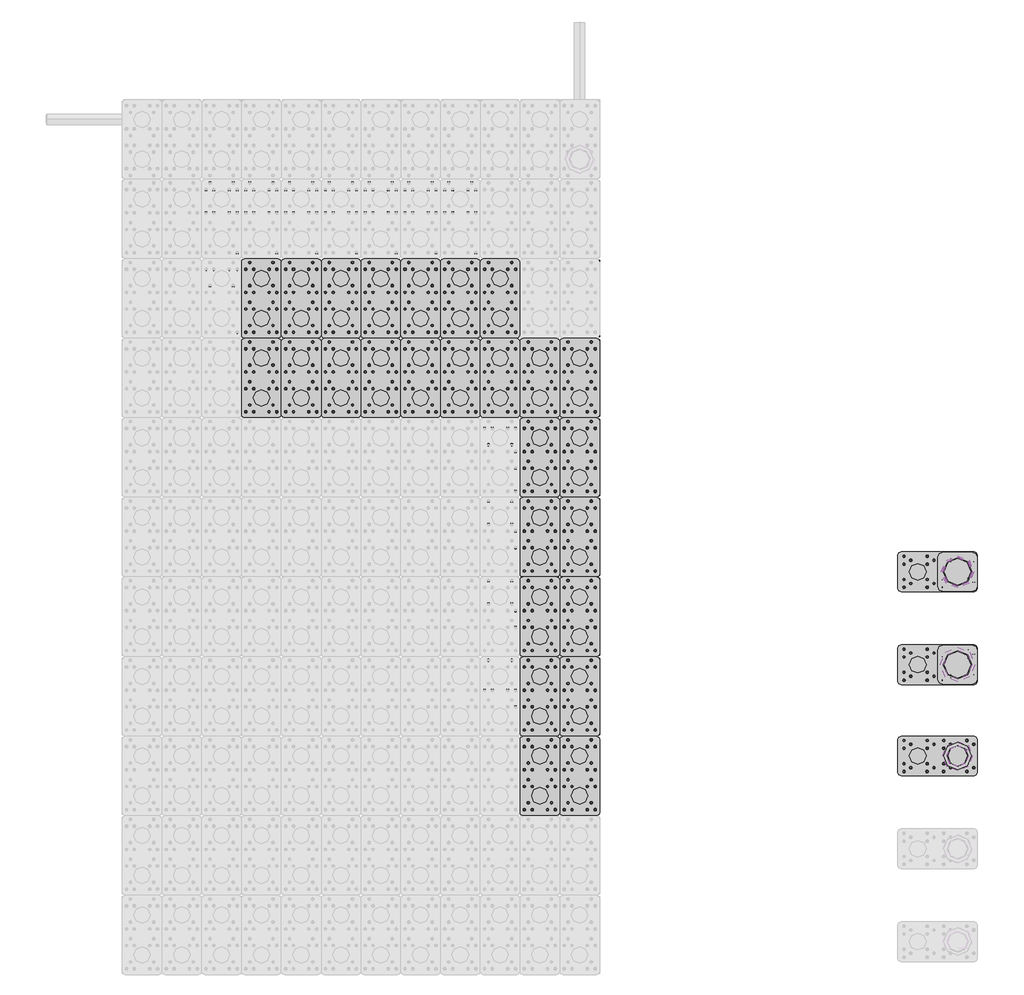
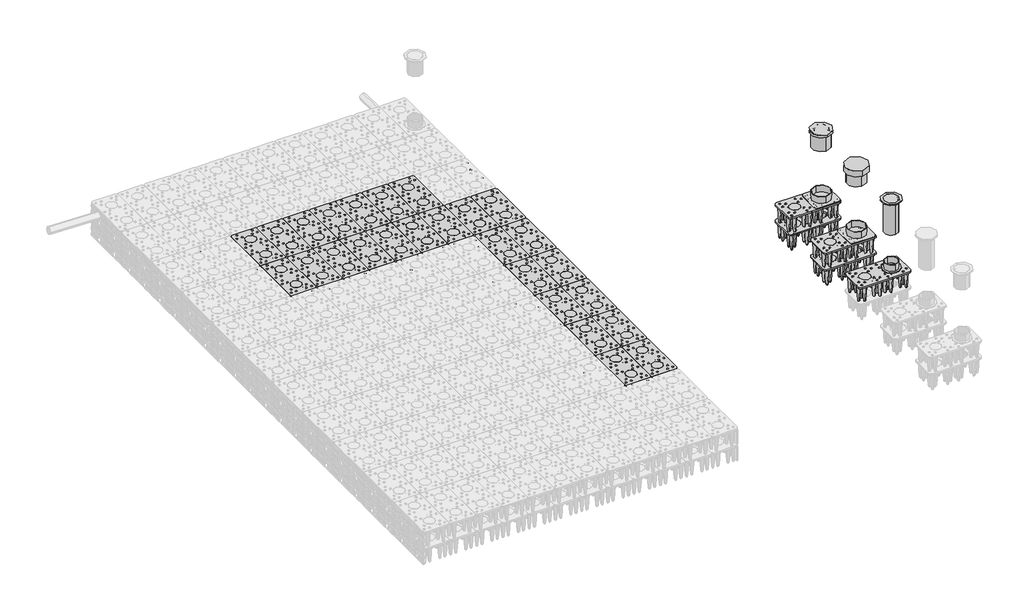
# One storey, part 4 of 6: 77 unitary equipment elements, 8 pipe fittings.
"""IFC4 building model written with IfcOpenShell, lengths in millimetres."""

from ifc_helpers import new_model, si_unit, origin, place, context, project, spatial, transform, mapped, element, save
from components import pipe_fitting_846650ca, pipe_fitting_b3aed72a, pipe_fitting_315_pp_ral9200_0fd825c0, pipe_fitting_425_pp_ral9200_b86bad7e, pipe_fitting_425_cast_iron_ral_9200_c55d621d, std_96d167fa, unitary_equipment_315_mm_28b5e6e1, unitary_equipment_425_mm_c4a4c188, std_5ed7479e, std_ece4d7e7, std_5641c3e3, std_cb78f788, std_054ed5cf

model = new_model("IFC4")

# Units and contexts
model_context = context("Model", 3, world=origin())
ifc_project = project(units=[si_unit("LENGTHUNIT", "METRE", prefix="MILLI")], contexts=[model_context])

# Site, building, storey
site = spatial("IfcSite", under=ifc_project)
building = spatial("IfcBuilding", under=site)
storey = spatial("IfcBuildingStorey", under=building, Name="Aquacell", Elevation=-2300.0)

# Pipe fittings
placement = place(None, origin())
pipe_fitting_shape = pipe_fitting_846650ca(model_context)
element("IfcPipeFitting", 1, ObjectType="Z_PIF_UN_Aquacell_NG_Telescopic_Pipe_PVC_Wavin_(nested) : DN315 L=750mm RAL8012", at=placement, inside=storey, context=model_context, shape_type="MappedRepresentation", body=[
    mapped(pipe_fitting_shape, transform((15086.051096, 60.7779398, 165.0), x_axis=(0.0, -1.0, 0.0), y_axis=(1.0, 0.0, 0.0), z_axis=(0.0, 0.0, 1.0))),
])
pipe_fitting_2_shape = pipe_fitting_b3aed72a(model_context)
element("IfcPipeFitting", 2, ObjectType="Z_PIF_UN_Aquacell_NG_Telescopic_Pipe_PVC_Wavin_(nested) : DN425 L=375mm RAL8012", at=placement, inside=storey, context=model_context, shape_type="MappedRepresentation", body=[
    mapped(pipe_fitting_2_shape, transform((15086.051096, 1438.247904, 165.0), x_axis=(0.0, -1.0, 0.0), y_axis=(1.0, 0.0, 0.0), z_axis=(0.0, 0.0, 1.0))),
])
element("IfcPipeFitting", 3, ObjectType="Z_PIF_UN_Aquacell_NG_Telescopic_Pipe_PVC_Wavin_(nested) : DN425 L=375mm RAL8012", at=placement, inside=storey, context=model_context, shape_type="MappedRepresentation", body=[
    mapped(pipe_fitting_2_shape, transform((15086.051096, 2838.247904, 165.0), x_axis=(0.0, -1.0, 0.0), y_axis=(1.0, 0.0, 0.0), z_axis=(0.0, 0.0, 1.0))),
])
pipe_fitting_315_pp_ral9200_shape = pipe_fitting_315_pp_ral9200_0fd825c0(model_context)
element("IfcPipeFitting", 4, ObjectType="Z_PIF_UN_Aquacell_NG_Round_Cover_Wavin_(nested) : 315 PP, RAL9200", at=placement, inside=storey, context=model_context, shape_type="MappedRepresentation", body=[
    mapped(pipe_fitting_315_pp_ral9200_shape, transform((15086.051096, 60.7779398, 200.0), x_axis=(0.0, -1.0, 0.0), y_axis=(1.0, 0.0, 0.0), z_axis=(0.0, 0.0, 1.0))),
])
pipe_fitting_425_pp_ral9200_shape = pipe_fitting_425_pp_ral9200_b86bad7e(model_context)
element("IfcPipeFitting", 5, ObjectType="Z_PIF_UN_Aquacell_NG_Round_Cover_Wavin_(nested) : 425 PP, RAL9200", at=placement, inside=storey, context=model_context, shape_type="MappedRepresentation", body=[
    mapped(pipe_fitting_425_pp_ral9200_shape, transform((15086.051096, 2838.247904, 200.0), x_axis=(0.0, -1.0, 0.0), y_axis=(1.0, 0.0, 0.0), z_axis=(0.0, 0.0, 1.0))),
])
pipe_fitting_425_cast_iron_ral_9200_shape = pipe_fitting_425_cast_iron_ral_9200_c55d621d(model_context)
element("IfcPipeFitting", 6, ObjectType="Z_PIF_UN_Aquacell_NG_Round_Cover_Wavin_(nested) : 425 cast iron, RAL 9200", at=placement, inside=storey, context=model_context, shape_type="MappedRepresentation", body=[
    mapped(pipe_fitting_425_cast_iron_ral_9200_shape, transform((15086.051096, 1438.247904, 200.0), x_axis=(0.0, -1.0, 0.0), y_axis=(1.0, 0.0, 0.0), z_axis=(0.0, 0.0, 1.0))),
])
std_shape = std_96d167fa(model_context)
element("IfcPipeFitting", 7, ObjectType="Z_PIF_UN_Aquacell_NG_Telescopic_Frame_Wavin_(nested) : std", at=placement, inside=storey, context=model_context, shape_type="MappedRepresentation", body=[
    mapped(std_shape, transform((15086.051096, 60.7779398, 200.0), x_axis=(0.0, -1.0, 0.0), y_axis=(1.0, 0.0, 0.0), z_axis=(0.0, 0.0, 1.0))),
])
element("IfcPipeFitting", 8, ObjectType="Z_PIF_UN_Aquacell_NG_Telescopic_Frame_Wavin_(nested) : std", at=placement, inside=storey, context=model_context, shape_type="MappedRepresentation", body=[
    mapped(std_shape, transform((15086.051096, 2838.247904, 200.0), x_axis=(0.0, -1.0, 0.0), y_axis=(1.0, 0.0, 0.0), z_axis=(0.0, 0.0, 1.0))),
])

# Unitary equipment
unitary_equipment_315_mm_shape = unitary_equipment_315_mm_28b5e6e1(model_context)
element("IfcUnitaryEquipment", 9, ObjectType="Z_ME_UN_Aquacell_NG_Kit_Shaft_Connector_Wavin_(nested) : 315 mm", at=placement, inside=storey, context=model_context, shape_type="MappedRepresentation", body=[
    mapped(unitary_equipment_315_mm_shape, transform((15086.051096, 60.7779398, -1475.0), x_axis=(1.0, 0.0, 0.0), y_axis=(0.0, 1.0, 0.0), z_axis=(0.0, 0.0, 1.0))),
])
unitary_equipment_425_mm_shape = unitary_equipment_425_mm_c4a4c188(model_context)
element("IfcUnitaryEquipment", 10, ObjectType="Z_ME_UN_Aquacell_NG_Kit_Shaft_Connector_Wavin_(nested) : 425 mm", at=placement, inside=storey, context=model_context, shape_type="MappedRepresentation", body=[
    mapped(unitary_equipment_425_mm_shape, transform((15086.051096, 1438.247904, -1475.0), x_axis=(1.0, 0.0, 0.0), y_axis=(0.0, 1.0, 0.0), z_axis=(0.0, 0.0, 1.0))),
])
element("IfcUnitaryEquipment", 11, ObjectType="Z_ME_UN_Aquacell_NG_Kit_Shaft_Connector_Wavin_(nested) : 425 mm", at=placement, inside=storey, context=model_context, shape_type="MappedRepresentation", body=[
    mapped(unitary_equipment_425_mm_shape, transform((15086.051096, 2838.247904, -1475.0), x_axis=(1.0, 0.0, 0.0), y_axis=(0.0, 1.0, 0.0), z_axis=(0.0, 0.0, 1.0))),
])
std_2_shape = std_5ed7479e(model_context)
element("IfcUnitaryEquipment", 12, ObjectType="Z_ME_UN_Aquacell_NG_Lateral_Side_Plate_Wavin_(nested) : std", at=placement, inside=storey, context=model_context, shape_type="MappedRepresentation", body=[
    mapped(std_2_shape, transform((9686.051096, 3960.7779398, -2306.0), x_axis=(0.0, 1.0000000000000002, 0.0), y_axis=(-1.0000000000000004, 0.0, 0.0), z_axis=(0.0, 0.0, 1.0000000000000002))),
])
element("IfcUnitaryEquipment", 13, ObjectType="Z_ME_UN_Aquacell_NG_Lateral_Side_Plate_Wavin_(nested) : std", at=placement, inside=storey, context=model_context, shape_type="MappedRepresentation", body=[
    mapped(std_2_shape, transform((9686.051096, 3960.7779398, -1906.0), x_axis=(0.0, 1.0000000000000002, 0.0), y_axis=(-1.0000000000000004, 0.0, 0.0), z_axis=(0.0, 0.0, 1.0000000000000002))),
])
element("IfcUnitaryEquipment", 14, ObjectType="Z_ME_UN_Aquacell_NG_Lateral_Side_Plate_Wavin_(nested) : std", at=placement, inside=storey, context=model_context, shape_type="MappedRepresentation", body=[
    mapped(std_2_shape, transform((9686.051096, 1560.7779398, -2306.0), x_axis=(0.0, 1.0000000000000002, 0.0), y_axis=(-1.0000000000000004, 0.0, 0.0), z_axis=(0.0, 0.0, 1.0000000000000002))),
])
element("IfcUnitaryEquipment", 15, ObjectType="Z_ME_UN_Aquacell_NG_Lateral_Side_Plate_Wavin_(nested) : std", at=placement, inside=storey, context=model_context, shape_type="MappedRepresentation", body=[
    mapped(std_2_shape, transform((9686.051096, 1560.7779398, -1906.0), x_axis=(0.0, 1.0000000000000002, 0.0), y_axis=(-1.0000000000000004, 0.0, 0.0), z_axis=(0.0, 0.0, 1.0000000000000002))),
])
element("IfcUnitaryEquipment", 16, ObjectType="Z_ME_UN_Aquacell_NG_Lateral_Side_Plate_Wavin_(nested) : std", at=placement, inside=storey, context=model_context, shape_type="MappedRepresentation", body=[
    mapped(std_2_shape, transform((9686.051096, 360.7779398, -2306.0), x_axis=(0.0, 1.0000000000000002, 0.0), y_axis=(-1.0000000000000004, 0.0, 0.0), z_axis=(0.0, 0.0, 1.0000000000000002))),
])
element("IfcUnitaryEquipment", 17, ObjectType="Z_ME_UN_Aquacell_NG_Lateral_Side_Plate_Wavin_(nested) : std", at=placement, inside=storey, context=model_context, shape_type="MappedRepresentation", body=[
    mapped(std_2_shape, transform((9686.051096, 360.7779398, -1906.0), x_axis=(0.0, 1.0000000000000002, 0.0), y_axis=(-1.0000000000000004, 0.0, 0.0), z_axis=(0.0, 0.0, 1.0000000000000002))),
])
element("IfcUnitaryEquipment", 18, ObjectType="Z_ME_UN_Aquacell_NG_Lateral_Side_Plate_Wavin_(nested) : std", at=placement, inside=storey, context=model_context, shape_type="MappedRepresentation", body=[
    mapped(std_2_shape, transform((9686.051096, 5160.7779398, -2306.0), x_axis=(0.0, 1.0000000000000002, 0.0), y_axis=(-1.0000000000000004, 0.0, 0.0), z_axis=(0.0, 0.0, 1.0000000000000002))),
])
element("IfcUnitaryEquipment", 19, ObjectType="Z_ME_UN_Aquacell_NG_Lateral_Side_Plate_Wavin_(nested) : std", at=placement, inside=storey, context=model_context, shape_type="MappedRepresentation", body=[
    mapped(std_2_shape, transform((9686.051096, 5160.7779398, -1906.0), x_axis=(0.0, 1.0000000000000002, 0.0), y_axis=(-1.0000000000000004, 0.0, 0.0), z_axis=(0.0, 0.0, 1.0000000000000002))),
])
element("IfcUnitaryEquipment", 20, ObjectType="Z_ME_UN_Aquacell_NG_Lateral_Side_Plate_Wavin_(nested) : std", at=placement, inside=storey, context=model_context, shape_type="MappedRepresentation", body=[
    mapped(std_2_shape, transform((9686.051096, 6360.7779398, -2306.0), x_axis=(0.0, 1.0000000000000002, 0.0), y_axis=(-1.0000000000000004, 0.0, 0.0), z_axis=(0.0, 0.0, 1.0000000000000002))),
])
element("IfcUnitaryEquipment", 21, ObjectType="Z_ME_UN_Aquacell_NG_Lateral_Side_Plate_Wavin_(nested) : std", at=placement, inside=storey, context=model_context, shape_type="MappedRepresentation", body=[
    mapped(std_2_shape, transform((9686.051096, 6360.7779398, -1906.0), x_axis=(0.0, 1.0000000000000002, 0.0), y_axis=(-1.0000000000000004, 0.0, 0.0), z_axis=(0.0, 0.0, 1.0000000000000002))),
])
element("IfcUnitaryEquipment", 22, ObjectType="Z_ME_UN_Aquacell_NG_Lateral_Side_Plate_Wavin_(nested) : std", at=placement, inside=storey, context=model_context, shape_type="MappedRepresentation", body=[
    mapped(std_2_shape, transform((9686.051096, 2760.7779398, -2306.0), x_axis=(0.0, 1.0000000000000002, 0.0), y_axis=(-1.0000000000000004, 0.0, 0.0), z_axis=(0.0, 0.0, 1.0000000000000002))),
])
element("IfcUnitaryEquipment", 23, ObjectType="Z_ME_UN_Aquacell_NG_Lateral_Side_Plate_Wavin_(nested) : std", at=placement, inside=storey, context=model_context, shape_type="MappedRepresentation", body=[
    mapped(std_2_shape, transform((9686.051096, 2760.7779398, -1906.0), x_axis=(0.0, 1.0000000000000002, 0.0), y_axis=(-1.0000000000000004, 0.0, 0.0), z_axis=(0.0, 0.0, 1.0000000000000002))),
])
std_3_shape = std_ece4d7e7(model_context)
std_4_shape = std_5641c3e3(model_context)
element("IfcUnitaryEquipment", 24, ObjectType="Z_ME_UN_Aquacell_NG_Infiltration_Unit_Wavin_(nested) : std", at=placement, inside=storey, context=model_context, shape_type="MappedRepresentation", body=[
    mapped(std_3_shape, transform((9686.051096, 360.7779398, -2475.0), x_axis=(0.0, 1.0, 0.0), y_axis=(-1.0000000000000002, 0.0, 0.0), z_axis=(0.0, 0.0, 1.0000000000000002))),
    mapped(std_4_shape, transform((9686.051096, 360.7779398, -2475.0), x_axis=(0.0, 1.0, 0.0), y_axis=(-1.0000000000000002, 0.0, 0.0), z_axis=(0.0, 0.0, 1.0000000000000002))),
])
element("IfcUnitaryEquipment", 25, ObjectType="Z_ME_UN_Aquacell_NG_Infiltration_Unit_Wavin_(nested) : std", at=placement, inside=storey, context=model_context, shape_type="MappedRepresentation", body=[
    mapped(std_3_shape, transform((9686.051096, 1560.7779398, -2475.0), x_axis=(0.0, 1.0, 0.0), y_axis=(-1.0000000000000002, 0.0, 0.0), z_axis=(0.0, 0.0, 1.0000000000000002))),
    mapped(std_4_shape, transform((9686.051096, 1560.7779398, -2475.0), x_axis=(0.0, 1.0, 0.0), y_axis=(-1.0000000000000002, 0.0, 0.0), z_axis=(0.0, 0.0, 1.0000000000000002))),
])
element("IfcUnitaryEquipment", 26, ObjectType="Z_ME_UN_Aquacell_NG_Infiltration_Unit_Wavin_(nested) : std", at=placement, inside=storey, context=model_context, shape_type="MappedRepresentation", body=[
    mapped(std_3_shape, transform((9686.051096, 2760.7779398, -2475.0), x_axis=(0.0, 1.0, 0.0), y_axis=(-1.0000000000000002, 0.0, 0.0), z_axis=(0.0, 0.0, 1.0000000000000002))),
    mapped(std_4_shape, transform((9686.051096, 2760.7779398, -2475.0), x_axis=(0.0, 1.0, 0.0), y_axis=(-1.0000000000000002, 0.0, 0.0), z_axis=(0.0, 0.0, 1.0000000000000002))),
])
element("IfcUnitaryEquipment", 27, ObjectType="Z_ME_UN_Aquacell_NG_Infiltration_Unit_Wavin_(nested) : std", at=placement, inside=storey, context=model_context, shape_type="MappedRepresentation", body=[
    mapped(std_3_shape, transform((9686.051096, 3960.7779398, -2475.0), x_axis=(0.0, 1.0, 0.0), y_axis=(-1.0000000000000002, 0.0, 0.0), z_axis=(0.0, 0.0, 1.0000000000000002))),
    mapped(std_4_shape, transform((9686.051096, 3960.7779398, -2475.0), x_axis=(0.0, 1.0, 0.0), y_axis=(-1.0000000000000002, 0.0, 0.0), z_axis=(0.0, 0.0, 1.0000000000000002))),
])
element("IfcUnitaryEquipment", 28, ObjectType="Z_ME_UN_Aquacell_NG_Infiltration_Unit_Wavin_(nested) : std", at=placement, inside=storey, context=model_context, shape_type="MappedRepresentation", body=[
    mapped(std_3_shape, transform((9686.051096, 5160.7779398, -2475.0), x_axis=(0.0, 1.0, 0.0), y_axis=(-1.0000000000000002, 0.0, 0.0), z_axis=(0.0, 0.0, 1.0000000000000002))),
    mapped(std_4_shape, transform((9686.051096, 5160.7779398, -2475.0), x_axis=(0.0, 1.0, 0.0), y_axis=(-1.0000000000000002, 0.0, 0.0), z_axis=(0.0, 0.0, 1.0000000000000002))),
])
element("IfcUnitaryEquipment", 29, ObjectType="Z_ME_UN_Aquacell_NG_Infiltration_Unit_Wavin_(nested) : std", at=placement, inside=storey, context=model_context, shape_type="MappedRepresentation", body=[
    mapped(std_3_shape, transform((9086.051096, 360.7779398, -2475.0), x_axis=(0.0, 1.0, 0.0), y_axis=(-1.0000000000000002, 0.0, 0.0), z_axis=(0.0, 0.0, 1.0000000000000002))),
    mapped(std_4_shape, transform((9086.051096, 360.7779398, -2475.0), x_axis=(0.0, 1.0, 0.0), y_axis=(-1.0000000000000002, 0.0, 0.0), z_axis=(0.0, 0.0, 1.0000000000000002))),
])
element("IfcUnitaryEquipment", 30, ObjectType="Z_ME_UN_Aquacell_NG_Infiltration_Unit_Wavin_(nested) : std", at=placement, inside=storey, context=model_context, shape_type="MappedRepresentation", body=[
    mapped(std_3_shape, transform((9086.051096, 1560.7779398, -2475.0), x_axis=(0.0, 1.0, 0.0), y_axis=(-1.0000000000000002, 0.0, 0.0), z_axis=(0.0, 0.0, 1.0000000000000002))),
    mapped(std_4_shape, transform((9086.051096, 1560.7779398, -2475.0), x_axis=(0.0, 1.0, 0.0), y_axis=(-1.0000000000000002, 0.0, 0.0), z_axis=(0.0, 0.0, 1.0000000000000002))),
])
element("IfcUnitaryEquipment", 31, ObjectType="Z_ME_UN_Aquacell_NG_Infiltration_Unit_Wavin_(nested) : std", at=placement, inside=storey, context=model_context, shape_type="MappedRepresentation", body=[
    mapped(std_3_shape, transform((9086.051096, 2760.7779398, -2475.0), x_axis=(0.0, 1.0, 0.0), y_axis=(-1.0000000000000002, 0.0, 0.0), z_axis=(0.0, 0.0, 1.0000000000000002))),
    mapped(std_4_shape, transform((9086.051096, 2760.7779398, -2475.0), x_axis=(0.0, 1.0, 0.0), y_axis=(-1.0000000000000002, 0.0, 0.0), z_axis=(0.0, 0.0, 1.0000000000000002))),
])
element("IfcUnitaryEquipment", 32, ObjectType="Z_ME_UN_Aquacell_NG_Infiltration_Unit_Wavin_(nested) : std", at=placement, inside=storey, context=model_context, shape_type="MappedRepresentation", body=[
    mapped(std_3_shape, transform((9086.051096, 3960.7779398, -2475.0), x_axis=(0.0, 1.0, 0.0), y_axis=(-1.0000000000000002, 0.0, 0.0), z_axis=(0.0, 0.0, 1.0000000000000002))),
    mapped(std_4_shape, transform((9086.051096, 3960.7779398, -2475.0), x_axis=(0.0, 1.0, 0.0), y_axis=(-1.0000000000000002, 0.0, 0.0), z_axis=(0.0, 0.0, 1.0000000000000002))),
])
element("IfcUnitaryEquipment", 33, ObjectType="Z_ME_UN_Aquacell_NG_Infiltration_Unit_Wavin_(nested) : std", at=placement, inside=storey, context=model_context, shape_type="MappedRepresentation", body=[
    mapped(std_3_shape, transform((9086.051096, 5160.7779398, -2475.0), x_axis=(0.0, 1.0, 0.0), y_axis=(-1.0000000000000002, 0.0, 0.0), z_axis=(0.0, 0.0, 1.0000000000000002))),
    mapped(std_4_shape, transform((9086.051096, 5160.7779398, -2475.0), x_axis=(0.0, 1.0, 0.0), y_axis=(-1.0000000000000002, 0.0, 0.0), z_axis=(0.0, 0.0, 1.0000000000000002))),
])
element("IfcUnitaryEquipment", 34, ObjectType="Z_ME_UN_Aquacell_NG_Infiltration_Unit_Wavin_(nested) : std", at=placement, inside=storey, context=model_context, shape_type="MappedRepresentation", body=[
    mapped(std_3_shape, transform((8486.051096, 360.7779398, -2475.0), x_axis=(0.0, 1.0, 0.0), y_axis=(-1.0000000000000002, 0.0, 0.0), z_axis=(0.0, 0.0, 1.0000000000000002))),
    mapped(std_4_shape, transform((8486.051096, 360.7779398, -2475.0), x_axis=(0.0, 1.0, 0.0), y_axis=(-1.0000000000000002, 0.0, 0.0), z_axis=(0.0, 0.0, 1.0000000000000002))),
])
element("IfcUnitaryEquipment", 35, ObjectType="Z_ME_UN_Aquacell_NG_Infiltration_Unit_Wavin_(nested) : std", at=placement, inside=storey, context=model_context, shape_type="MappedRepresentation", body=[
    mapped(std_3_shape, transform((8486.051096, 1560.7779398, -2475.0), x_axis=(0.0, 1.0, 0.0), y_axis=(-1.0000000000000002, 0.0, 0.0), z_axis=(0.0, 0.0, 1.0000000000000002))),
    mapped(std_4_shape, transform((8486.051096, 1560.7779398, -2475.0), x_axis=(0.0, 1.0, 0.0), y_axis=(-1.0000000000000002, 0.0, 0.0), z_axis=(0.0, 0.0, 1.0000000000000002))),
])
element("IfcUnitaryEquipment", 36, ObjectType="Z_ME_UN_Aquacell_NG_Infiltration_Unit_Wavin_(nested) : std", at=placement, inside=storey, context=model_context, shape_type="MappedRepresentation", body=[
    mapped(std_3_shape, transform((8486.051096, 2760.7779398, -2475.0), x_axis=(0.0, 1.0, 0.0), y_axis=(-1.0000000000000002, 0.0, 0.0), z_axis=(0.0, 0.0, 1.0000000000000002))),
    mapped(std_4_shape, transform((8486.051096, 2760.7779398, -2475.0), x_axis=(0.0, 1.0, 0.0), y_axis=(-1.0000000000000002, 0.0, 0.0), z_axis=(0.0, 0.0, 1.0000000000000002))),
])
element("IfcUnitaryEquipment", 37, ObjectType="Z_ME_UN_Aquacell_NG_Infiltration_Unit_Wavin_(nested) : std", at=placement, inside=storey, context=model_context, shape_type="MappedRepresentation", body=[
    mapped(std_3_shape, transform((8486.051096, 3960.7779398, -2475.0), x_axis=(0.0, 1.0, 0.0), y_axis=(-1.0000000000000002, 0.0, 0.0), z_axis=(0.0, 0.0, 1.0000000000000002))),
    mapped(std_4_shape, transform((8486.051096, 3960.7779398, -2475.0), x_axis=(0.0, 1.0, 0.0), y_axis=(-1.0000000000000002, 0.0, 0.0), z_axis=(0.0, 0.0, 1.0000000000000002))),
])
element("IfcUnitaryEquipment", 38, ObjectType="Z_ME_UN_Aquacell_NG_Infiltration_Unit_Wavin_(nested) : std", at=placement, inside=storey, context=model_context, shape_type="MappedRepresentation", body=[
    mapped(std_3_shape, transform((8486.051096, 5160.7779398, -2475.0), x_axis=(0.0, 1.0, 0.0), y_axis=(-1.0000000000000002, 0.0, 0.0), z_axis=(0.0, 0.0, 1.0000000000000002))),
    mapped(std_4_shape, transform((8486.051096, 5160.7779398, -2475.0), x_axis=(0.0, 1.0, 0.0), y_axis=(-1.0000000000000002, 0.0, 0.0), z_axis=(0.0, 0.0, 1.0000000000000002))),
])
element("IfcUnitaryEquipment", 39, ObjectType="Z_ME_UN_Aquacell_NG_Infiltration_Unit_Wavin_(nested) : std", at=placement, inside=storey, context=model_context, shape_type="MappedRepresentation", body=[
    mapped(std_3_shape, transform((8486.051096, 6360.7779398, -2475.0), x_axis=(0.0, 1.0, 0.0), y_axis=(-1.0000000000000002, 0.0, 0.0), z_axis=(0.0, 0.0, 1.0000000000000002))),
    mapped(std_4_shape, transform((8486.051096, 6360.7779398, -2475.0), x_axis=(0.0, 1.0, 0.0), y_axis=(-1.0000000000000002, 0.0, 0.0), z_axis=(0.0, 0.0, 1.0000000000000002))),
])
element("IfcUnitaryEquipment", 40, ObjectType="Z_ME_UN_Aquacell_NG_Infiltration_Unit_Wavin_(nested) : std", at=placement, inside=storey, context=model_context, shape_type="MappedRepresentation", body=[
    mapped(std_3_shape, transform((7886.051096, 6360.7779398, -2475.0), x_axis=(0.0, 1.0, 0.0), y_axis=(-1.0000000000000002, 0.0, 0.0), z_axis=(0.0, 0.0, 1.0000000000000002))),
    mapped(std_4_shape, transform((7886.051096, 6360.7779398, -2475.0), x_axis=(0.0, 1.0, 0.0), y_axis=(-1.0000000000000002, 0.0, 0.0), z_axis=(0.0, 0.0, 1.0000000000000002))),
])
element("IfcUnitaryEquipment", 41, ObjectType="Z_ME_UN_Aquacell_NG_Infiltration_Unit_Wavin_(nested) : std", at=placement, inside=storey, context=model_context, shape_type="MappedRepresentation", body=[
    mapped(std_3_shape, transform((7886.051096, 7560.7779398, -2475.0), x_axis=(0.0, 1.0, 0.0), y_axis=(-1.0000000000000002, 0.0, 0.0), z_axis=(0.0, 0.0, 1.0000000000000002))),
    mapped(std_4_shape, transform((7886.051096, 7560.7779398, -2475.0), x_axis=(0.0, 1.0, 0.0), y_axis=(-1.0000000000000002, 0.0, 0.0), z_axis=(0.0, 0.0, 1.0000000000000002))),
])
element("IfcUnitaryEquipment", 42, ObjectType="Z_ME_UN_Aquacell_NG_Infiltration_Unit_Wavin_(nested) : std", at=placement, inside=storey, context=model_context, shape_type="MappedRepresentation", body=[
    mapped(std_3_shape, transform((7286.051096, 5160.7779398, -2475.0), x_axis=(0.0, 1.0, 0.0), y_axis=(-1.0000000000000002, 0.0, 0.0), z_axis=(0.0, 0.0, 1.0000000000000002))),
    mapped(std_4_shape, transform((7286.051096, 5160.7779398, -2475.0), x_axis=(0.0, 1.0, 0.0), y_axis=(-1.0000000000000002, 0.0, 0.0), z_axis=(0.0, 0.0, 1.0000000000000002))),
])
element("IfcUnitaryEquipment", 43, ObjectType="Z_ME_UN_Aquacell_NG_Infiltration_Unit_Wavin_(nested) : std", at=placement, inside=storey, context=model_context, shape_type="MappedRepresentation", body=[
    mapped(std_3_shape, transform((7286.051096, 6360.7779398, -2475.0), x_axis=(0.0, 1.0, 0.0), y_axis=(-1.0000000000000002, 0.0, 0.0), z_axis=(0.0, 0.0, 1.0000000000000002))),
    mapped(std_4_shape, transform((7286.051096, 6360.7779398, -2475.0), x_axis=(0.0, 1.0, 0.0), y_axis=(-1.0000000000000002, 0.0, 0.0), z_axis=(0.0, 0.0, 1.0000000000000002))),
])
element("IfcUnitaryEquipment", 44, ObjectType="Z_ME_UN_Aquacell_NG_Infiltration_Unit_Wavin_(nested) : std", at=placement, inside=storey, context=model_context, shape_type="MappedRepresentation", body=[
    mapped(std_3_shape, transform((7286.051096, 7560.7779398, -2475.0), x_axis=(0.0, 1.0, 0.0), y_axis=(-1.0000000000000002, 0.0, 0.0), z_axis=(0.0, 0.0, 1.0000000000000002))),
    mapped(std_4_shape, transform((7286.051096, 7560.7779398, -2475.0), x_axis=(0.0, 1.0, 0.0), y_axis=(-1.0000000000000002, 0.0, 0.0), z_axis=(0.0, 0.0, 1.0000000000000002))),
])
element("IfcUnitaryEquipment", 45, ObjectType="Z_ME_UN_Aquacell_NG_Infiltration_Unit_Wavin_(nested) : std", at=placement, inside=storey, context=model_context, shape_type="MappedRepresentation", body=[
    mapped(std_3_shape, transform((6686.051096, 6360.7779398, -2475.0), x_axis=(0.0, 1.0, 0.0), y_axis=(-1.0000000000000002, 0.0, 0.0), z_axis=(0.0, 0.0, 1.0000000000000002))),
    mapped(std_4_shape, transform((6686.051096, 6360.7779398, -2475.0), x_axis=(0.0, 1.0, 0.0), y_axis=(-1.0000000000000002, 0.0, 0.0), z_axis=(0.0, 0.0, 1.0000000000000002))),
])
element("IfcUnitaryEquipment", 46, ObjectType="Z_ME_UN_Aquacell_NG_Infiltration_Unit_Wavin_(nested) : std", at=placement, inside=storey, context=model_context, shape_type="MappedRepresentation", body=[
    mapped(std_3_shape, transform((6686.051096, 7560.7779398, -2475.0), x_axis=(0.0, 1.0, 0.0), y_axis=(-1.0000000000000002, 0.0, 0.0), z_axis=(0.0, 0.0, 1.0000000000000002))),
    mapped(std_4_shape, transform((6686.051096, 7560.7779398, -2475.0), x_axis=(0.0, 1.0, 0.0), y_axis=(-1.0000000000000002, 0.0, 0.0), z_axis=(0.0, 0.0, 1.0000000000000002))),
])
element("IfcUnitaryEquipment", 47, ObjectType="Z_ME_UN_Aquacell_NG_Infiltration_Unit_Wavin_(nested) : std", at=placement, inside=storey, context=model_context, shape_type="MappedRepresentation", body=[
    mapped(std_3_shape, transform((6086.051096, 6360.7779398, -2475.0), x_axis=(0.0, 1.0, 0.0), y_axis=(-1.0000000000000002, 0.0, 0.0), z_axis=(0.0, 0.0, 1.0000000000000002))),
    mapped(std_4_shape, transform((6086.051096, 6360.7779398, -2475.0), x_axis=(0.0, 1.0, 0.0), y_axis=(-1.0000000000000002, 0.0, 0.0), z_axis=(0.0, 0.0, 1.0000000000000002))),
])
element("IfcUnitaryEquipment", 48, ObjectType="Z_ME_UN_Aquacell_NG_Infiltration_Unit_Wavin_(nested) : std", at=placement, inside=storey, context=model_context, shape_type="MappedRepresentation", body=[
    mapped(std_3_shape, transform((6086.051096, 7560.7779398, -2475.0), x_axis=(0.0, 1.0, 0.0), y_axis=(-1.0000000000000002, 0.0, 0.0), z_axis=(0.0, 0.0, 1.0000000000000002))),
    mapped(std_4_shape, transform((6086.051096, 7560.7779398, -2475.0), x_axis=(0.0, 1.0, 0.0), y_axis=(-1.0000000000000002, 0.0, 0.0), z_axis=(0.0, 0.0, 1.0000000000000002))),
])
element("IfcUnitaryEquipment", 49, ObjectType="Z_ME_UN_Aquacell_NG_Infiltration_Unit_Wavin_(nested) : std", at=placement, inside=storey, context=model_context, shape_type="MappedRepresentation", body=[
    mapped(std_3_shape, transform((5486.051096, 6360.7779398, -2475.0), x_axis=(0.0, 1.0, 0.0), y_axis=(-1.0000000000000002, 0.0, 0.0), z_axis=(0.0, 0.0, 1.0000000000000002))),
    mapped(std_4_shape, transform((5486.051096, 6360.7779398, -2475.0), x_axis=(0.0, 1.0, 0.0), y_axis=(-1.0000000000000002, 0.0, 0.0), z_axis=(0.0, 0.0, 1.0000000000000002))),
])
element("IfcUnitaryEquipment", 50, ObjectType="Z_ME_UN_Aquacell_NG_Infiltration_Unit_Wavin_(nested) : std", at=placement, inside=storey, context=model_context, shape_type="MappedRepresentation", body=[
    mapped(std_3_shape, transform((5486.051096, 7560.7779398, -2475.0), x_axis=(0.0, 1.0, 0.0), y_axis=(-1.0000000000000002, 0.0, 0.0), z_axis=(0.0, 0.0, 1.0000000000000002))),
    mapped(std_4_shape, transform((5486.051096, 7560.7779398, -2475.0), x_axis=(0.0, 1.0, 0.0), y_axis=(-1.0000000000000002, 0.0, 0.0), z_axis=(0.0, 0.0, 1.0000000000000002))),
])
element("IfcUnitaryEquipment", 51, ObjectType="Z_ME_UN_Aquacell_NG_Infiltration_Unit_Wavin_(nested) : std", at=placement, inside=storey, context=model_context, shape_type="MappedRepresentation", body=[
    mapped(std_3_shape, transform((4886.051096, 6360.7779398, -2475.0), x_axis=(0.0, 1.0, 0.0), y_axis=(-1.0000000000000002, 0.0, 0.0), z_axis=(0.0, 0.0, 1.0000000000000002))),
    mapped(std_4_shape, transform((4886.051096, 6360.7779398, -2475.0), x_axis=(0.0, 1.0, 0.0), y_axis=(-1.0000000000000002, 0.0, 0.0), z_axis=(0.0, 0.0, 1.0000000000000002))),
])
element("IfcUnitaryEquipment", 52, ObjectType="Z_ME_UN_Aquacell_NG_Infiltration_Unit_Wavin_(nested) : std", at=placement, inside=storey, context=model_context, shape_type="MappedRepresentation", body=[
    mapped(std_3_shape, transform((4886.051096, 7560.7779398, -2475.0), x_axis=(0.0, 1.0, 0.0), y_axis=(-1.0000000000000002, 0.0, 0.0), z_axis=(0.0, 0.0, 1.0000000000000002))),
    mapped(std_4_shape, transform((4886.051096, 7560.7779398, -2475.0), x_axis=(0.0, 1.0, 0.0), y_axis=(-1.0000000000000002, 0.0, 0.0), z_axis=(0.0, 0.0, 1.0000000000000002))),
])
element("IfcUnitaryEquipment", 53, ObjectType="Z_ME_UN_Aquacell_NG_Infiltration_Unit_Wavin_(nested) : std", at=placement, inside=storey, context=model_context, shape_type="MappedRepresentation", body=[
    mapped(std_3_shape, transform((4286.051096, 6360.7779398, -2475.0), x_axis=(0.0, 1.0, 0.0), y_axis=(-1.0000000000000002, 0.0, 0.0), z_axis=(0.0, 0.0, 1.0000000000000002))),
    mapped(std_4_shape, transform((4286.051096, 6360.7779398, -2475.0), x_axis=(0.0, 1.0, 0.0), y_axis=(-1.0000000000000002, 0.0, 0.0), z_axis=(0.0, 0.0, 1.0000000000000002))),
])
element("IfcUnitaryEquipment", 54, ObjectType="Z_ME_UN_Aquacell_NG_Infiltration_Unit_Wavin_(nested) : std", at=placement, inside=storey, context=model_context, shape_type="MappedRepresentation", body=[
    mapped(std_3_shape, transform((4286.051096, 7560.7779398, -2475.0), x_axis=(0.0, 1.0, 0.0), y_axis=(-1.0000000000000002, 0.0, 0.0), z_axis=(0.0, 0.0, 1.0000000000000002))),
    mapped(std_4_shape, transform((4286.051096, 7560.7779398, -2475.0), x_axis=(0.0, 1.0, 0.0), y_axis=(-1.0000000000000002, 0.0, 0.0), z_axis=(0.0, 0.0, 1.0000000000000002))),
])
element("IfcUnitaryEquipment", 55, ObjectType="Z_ME_UN_Aquacell_NG_Infiltration_Unit_Wavin_(nested) : std", at=placement, inside=storey, context=model_context, shape_type="MappedRepresentation", body=[
    mapped(std_3_shape, transform((9086.051096, 360.7779398, -2075.0), x_axis=(0.0, -1.0, 0.0), y_axis=(1.0000000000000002, 0.0, 0.0), z_axis=(0.0, 0.0, 1.0000000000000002))),
    mapped(std_4_shape, transform((9086.051096, 360.7779398, -2075.0), x_axis=(0.0, -1.0, 0.0), y_axis=(1.0000000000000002, 0.0, 0.0), z_axis=(0.0, 0.0, 1.0000000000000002))),
])
element("IfcUnitaryEquipment", 56, ObjectType="Z_ME_UN_Aquacell_NG_Infiltration_Unit_Wavin_(nested) : std", at=placement, inside=storey, context=model_context, shape_type="MappedRepresentation", body=[
    mapped(std_3_shape, transform((9086.051096, 1560.7779398, -2075.0), x_axis=(0.0, -1.0, 0.0), y_axis=(1.0000000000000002, 0.0, 0.0), z_axis=(0.0, 0.0, 1.0000000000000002))),
    mapped(std_4_shape, transform((9086.051096, 1560.7779398, -2075.0), x_axis=(0.0, -1.0, 0.0), y_axis=(1.0000000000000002, 0.0, 0.0), z_axis=(0.0, 0.0, 1.0000000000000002))),
])
element("IfcUnitaryEquipment", 57, ObjectType="Z_ME_UN_Aquacell_NG_Infiltration_Unit_Wavin_(nested) : std", at=placement, inside=storey, context=model_context, shape_type="MappedRepresentation", body=[
    mapped(std_3_shape, transform((9086.051096, 2760.7779398, -2075.0), x_axis=(0.0, -1.0, 0.0), y_axis=(1.0000000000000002, 0.0, 0.0), z_axis=(0.0, 0.0, 1.0000000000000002))),
    mapped(std_4_shape, transform((9086.051096, 2760.7779398, -2075.0), x_axis=(0.0, -1.0, 0.0), y_axis=(1.0000000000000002, 0.0, 0.0), z_axis=(0.0, 0.0, 1.0000000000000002))),
])
element("IfcUnitaryEquipment", 58, ObjectType="Z_ME_UN_Aquacell_NG_Infiltration_Unit_Wavin_(nested) : std", at=placement, inside=storey, context=model_context, shape_type="MappedRepresentation", body=[
    mapped(std_3_shape, transform((9086.051096, 3960.7779398, -2075.0), x_axis=(0.0, -1.0, 0.0), y_axis=(1.0000000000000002, 0.0, 0.0), z_axis=(0.0, 0.0, 1.0000000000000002))),
    mapped(std_4_shape, transform((9086.051096, 3960.7779398, -2075.0), x_axis=(0.0, -1.0, 0.0), y_axis=(1.0000000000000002, 0.0, 0.0), z_axis=(0.0, 0.0, 1.0000000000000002))),
])
element("IfcUnitaryEquipment", 59, ObjectType="Z_ME_UN_Aquacell_NG_Infiltration_Unit_Wavin_(nested) : std", at=placement, inside=storey, context=model_context, shape_type="MappedRepresentation", body=[
    mapped(std_3_shape, transform((9086.051096, 5160.7779398, -2075.0), x_axis=(0.0, -1.0, 0.0), y_axis=(1.0000000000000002, 0.0, 0.0), z_axis=(0.0, 0.0, 1.0000000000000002))),
    mapped(std_4_shape, transform((9086.051096, 5160.7779398, -2075.0), x_axis=(0.0, -1.0, 0.0), y_axis=(1.0000000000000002, 0.0, 0.0), z_axis=(0.0, 0.0, 1.0000000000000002))),
])
element("IfcUnitaryEquipment", 60, ObjectType="Z_ME_UN_Aquacell_NG_Infiltration_Unit_Wavin_(nested) : std", at=placement, inside=storey, context=model_context, shape_type="MappedRepresentation", body=[
    mapped(std_3_shape, transform((9086.051096, 6360.7779398, -2075.0), x_axis=(0.0, -1.0, 0.0), y_axis=(1.0000000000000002, 0.0, 0.0), z_axis=(0.0, 0.0, 1.0000000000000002))),
    mapped(std_4_shape, transform((9086.051096, 6360.7779398, -2075.0), x_axis=(0.0, -1.0, 0.0), y_axis=(1.0000000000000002, 0.0, 0.0), z_axis=(0.0, 0.0, 1.0000000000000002))),
])
element("IfcUnitaryEquipment", 61, ObjectType="Z_ME_UN_Aquacell_NG_Infiltration_Unit_Wavin_(nested) : std", at=placement, inside=storey, context=model_context, shape_type="MappedRepresentation", body=[
    mapped(std_3_shape, transform((8486.051096, 360.7779398, -2075.0), x_axis=(0.0, -1.0, 0.0), y_axis=(1.0000000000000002, 0.0, 0.0), z_axis=(0.0, 0.0, 1.0000000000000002))),
    mapped(std_4_shape, transform((8486.051096, 360.7779398, -2075.0), x_axis=(0.0, -1.0, 0.0), y_axis=(1.0000000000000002, 0.0, 0.0), z_axis=(0.0, 0.0, 1.0000000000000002))),
])
element("IfcUnitaryEquipment", 62, ObjectType="Z_ME_UN_Aquacell_NG_Infiltration_Unit_Wavin_(nested) : std", at=placement, inside=storey, context=model_context, shape_type="MappedRepresentation", body=[
    mapped(std_3_shape, transform((8486.051096, 1560.7779398, -2075.0), x_axis=(0.0, -1.0, 0.0), y_axis=(1.0000000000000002, 0.0, 0.0), z_axis=(0.0, 0.0, 1.0000000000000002))),
    mapped(std_4_shape, transform((8486.051096, 1560.7779398, -2075.0), x_axis=(0.0, -1.0, 0.0), y_axis=(1.0000000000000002, 0.0, 0.0), z_axis=(0.0, 0.0, 1.0000000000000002))),
])
element("IfcUnitaryEquipment", 63, ObjectType="Z_ME_UN_Aquacell_NG_Infiltration_Unit_Wavin_(nested) : std", at=placement, inside=storey, context=model_context, shape_type="MappedRepresentation", body=[
    mapped(std_3_shape, transform((8486.051096, 2760.7779398, -2075.0), x_axis=(0.0, -1.0, 0.0), y_axis=(1.0000000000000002, 0.0, 0.0), z_axis=(0.0, 0.0, 1.0000000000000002))),
    mapped(std_4_shape, transform((8486.051096, 2760.7779398, -2075.0), x_axis=(0.0, -1.0, 0.0), y_axis=(1.0000000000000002, 0.0, 0.0), z_axis=(0.0, 0.0, 1.0000000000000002))),
])
element("IfcUnitaryEquipment", 64, ObjectType="Z_ME_UN_Aquacell_NG_Infiltration_Unit_Wavin_(nested) : std", at=placement, inside=storey, context=model_context, shape_type="MappedRepresentation", body=[
    mapped(std_3_shape, transform((8486.051096, 3960.7779398, -2075.0), x_axis=(0.0, -1.0, 0.0), y_axis=(1.0000000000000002, 0.0, 0.0), z_axis=(0.0, 0.0, 1.0000000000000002))),
    mapped(std_4_shape, transform((8486.051096, 3960.7779398, -2075.0), x_axis=(0.0, -1.0, 0.0), y_axis=(1.0000000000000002, 0.0, 0.0), z_axis=(0.0, 0.0, 1.0000000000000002))),
])
element("IfcUnitaryEquipment", 65, ObjectType="Z_ME_UN_Aquacell_NG_Infiltration_Unit_Wavin_(nested) : std", at=placement, inside=storey, context=model_context, shape_type="MappedRepresentation", body=[
    mapped(std_3_shape, transform((8486.051096, 5160.7779398, -2075.0), x_axis=(0.0, -1.0, 0.0), y_axis=(1.0000000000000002, 0.0, 0.0), z_axis=(0.0, 0.0, 1.0000000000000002))),
    mapped(std_4_shape, transform((8486.051096, 5160.7779398, -2075.0), x_axis=(0.0, -1.0, 0.0), y_axis=(1.0000000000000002, 0.0, 0.0), z_axis=(0.0, 0.0, 1.0000000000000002))),
])
element("IfcUnitaryEquipment", 66, ObjectType="Z_ME_UN_Aquacell_NG_Infiltration_Unit_Wavin_(nested) : std", at=placement, inside=storey, context=model_context, shape_type="MappedRepresentation", body=[
    mapped(std_3_shape, transform((8486.051096, 6360.7779398, -2075.0), x_axis=(0.0, -1.0, 0.0), y_axis=(1.0000000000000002, 0.0, 0.0), z_axis=(0.0, 0.0, 1.0000000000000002))),
    mapped(std_4_shape, transform((8486.051096, 6360.7779398, -2075.0), x_axis=(0.0, -1.0, 0.0), y_axis=(1.0000000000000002, 0.0, 0.0), z_axis=(0.0, 0.0, 1.0000000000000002))),
])
element("IfcUnitaryEquipment", 67, ObjectType="Z_ME_UN_Aquacell_NG_Infiltration_Unit_Wavin_(nested) : std", at=placement, inside=storey, context=model_context, shape_type="MappedRepresentation", body=[
    mapped(std_3_shape, transform((7886.051096, 6360.7779398, -2075.0), x_axis=(0.0, -1.0, 0.0), y_axis=(1.0000000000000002, 0.0, 0.0), z_axis=(0.0, 0.0, 1.0000000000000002))),
    mapped(std_4_shape, transform((7886.051096, 6360.7779398, -2075.0), x_axis=(0.0, -1.0, 0.0), y_axis=(1.0000000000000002, 0.0, 0.0), z_axis=(0.0, 0.0, 1.0000000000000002))),
])
element("IfcUnitaryEquipment", 68, ObjectType="Z_ME_UN_Aquacell_NG_Infiltration_Unit_Wavin_(nested) : std", at=placement, inside=storey, context=model_context, shape_type="MappedRepresentation", body=[
    mapped(std_3_shape, transform((7886.051096, 7560.7779398, -2075.0), x_axis=(0.0, -1.0, 0.0), y_axis=(1.0000000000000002, 0.0, 0.0), z_axis=(0.0, 0.0, 1.0000000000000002))),
    mapped(std_4_shape, transform((7886.051096, 7560.7779398, -2075.0), x_axis=(0.0, -1.0, 0.0), y_axis=(1.0000000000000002, 0.0, 0.0), z_axis=(0.0, 0.0, 1.0000000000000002))),
])
element("IfcUnitaryEquipment", 69, ObjectType="Z_ME_UN_Aquacell_NG_Infiltration_Unit_Wavin_(nested) : std", at=placement, inside=storey, context=model_context, shape_type="MappedRepresentation", body=[
    mapped(std_3_shape, transform((7286.051096, 6360.7779398, -2075.0), x_axis=(0.0, -1.0, 0.0), y_axis=(1.0000000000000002, 0.0, 0.0), z_axis=(0.0, 0.0, 1.0000000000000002))),
    mapped(std_4_shape, transform((7286.051096, 6360.7779398, -2075.0), x_axis=(0.0, -1.0, 0.0), y_axis=(1.0000000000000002, 0.0, 0.0), z_axis=(0.0, 0.0, 1.0000000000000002))),
])
element("IfcUnitaryEquipment", 70, ObjectType="Z_ME_UN_Aquacell_NG_Infiltration_Unit_Wavin_(nested) : std", at=placement, inside=storey, context=model_context, shape_type="MappedRepresentation", body=[
    mapped(std_3_shape, transform((7286.051096, 7560.7779398, -2075.0), x_axis=(0.0, -1.0, 0.0), y_axis=(1.0000000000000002, 0.0, 0.0), z_axis=(0.0, 0.0, 1.0000000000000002))),
    mapped(std_4_shape, transform((7286.051096, 7560.7779398, -2075.0), x_axis=(0.0, -1.0, 0.0), y_axis=(1.0000000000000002, 0.0, 0.0), z_axis=(0.0, 0.0, 1.0000000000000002))),
])
element("IfcUnitaryEquipment", 71, ObjectType="Z_ME_UN_Aquacell_NG_Infiltration_Unit_Wavin_(nested) : std", at=placement, inside=storey, context=model_context, shape_type="MappedRepresentation", body=[
    mapped(std_3_shape, transform((6686.051096, 6360.7779398, -2075.0), x_axis=(0.0, -1.0, 0.0), y_axis=(1.0000000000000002, 0.0, 0.0), z_axis=(0.0, 0.0, 1.0000000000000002))),
    mapped(std_4_shape, transform((6686.051096, 6360.7779398, -2075.0), x_axis=(0.0, -1.0, 0.0), y_axis=(1.0000000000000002, 0.0, 0.0), z_axis=(0.0, 0.0, 1.0000000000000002))),
])
element("IfcUnitaryEquipment", 72, ObjectType="Z_ME_UN_Aquacell_NG_Infiltration_Unit_Wavin_(nested) : std", at=placement, inside=storey, context=model_context, shape_type="MappedRepresentation", body=[
    mapped(std_3_shape, transform((6686.051096, 7560.7779398, -2075.0), x_axis=(0.0, -1.0, 0.0), y_axis=(1.0000000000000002, 0.0, 0.0), z_axis=(0.0, 0.0, 1.0000000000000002))),
    mapped(std_4_shape, transform((6686.051096, 7560.7779398, -2075.0), x_axis=(0.0, -1.0, 0.0), y_axis=(1.0000000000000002, 0.0, 0.0), z_axis=(0.0, 0.0, 1.0000000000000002))),
])
element("IfcUnitaryEquipment", 73, ObjectType="Z_ME_UN_Aquacell_NG_Infiltration_Unit_Wavin_(nested) : std", at=placement, inside=storey, context=model_context, shape_type="MappedRepresentation", body=[
    mapped(std_3_shape, transform((6086.051096, 6360.7779398, -2075.0), x_axis=(0.0, -1.0, 0.0), y_axis=(1.0000000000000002, 0.0, 0.0), z_axis=(0.0, 0.0, 1.0000000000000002))),
    mapped(std_4_shape, transform((6086.051096, 6360.7779398, -2075.0), x_axis=(0.0, -1.0, 0.0), y_axis=(1.0000000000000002, 0.0, 0.0), z_axis=(0.0, 0.0, 1.0000000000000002))),
])
element("IfcUnitaryEquipment", 74, ObjectType="Z_ME_UN_Aquacell_NG_Infiltration_Unit_Wavin_(nested) : std", at=placement, inside=storey, context=model_context, shape_type="MappedRepresentation", body=[
    mapped(std_3_shape, transform((6086.051096, 7560.7779398, -2075.0), x_axis=(0.0, -1.0, 0.0), y_axis=(1.0000000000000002, 0.0, 0.0), z_axis=(0.0, 0.0, 1.0000000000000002))),
    mapped(std_4_shape, transform((6086.051096, 7560.7779398, -2075.0), x_axis=(0.0, -1.0, 0.0), y_axis=(1.0000000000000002, 0.0, 0.0), z_axis=(0.0, 0.0, 1.0000000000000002))),
])
element("IfcUnitaryEquipment", 75, ObjectType="Z_ME_UN_Aquacell_NG_Infiltration_Unit_Wavin_(nested) : std", at=placement, inside=storey, context=model_context, shape_type="MappedRepresentation", body=[
    mapped(std_3_shape, transform((5486.051096, 6360.7779398, -2075.0), x_axis=(0.0, -1.0, 0.0), y_axis=(1.0000000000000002, 0.0, 0.0), z_axis=(0.0, 0.0, 1.0000000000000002))),
    mapped(std_4_shape, transform((5486.051096, 6360.7779398, -2075.0), x_axis=(0.0, -1.0, 0.0), y_axis=(1.0000000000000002, 0.0, 0.0), z_axis=(0.0, 0.0, 1.0000000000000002))),
])
element("IfcUnitaryEquipment", 76, ObjectType="Z_ME_UN_Aquacell_NG_Infiltration_Unit_Wavin_(nested) : std", at=placement, inside=storey, context=model_context, shape_type="MappedRepresentation", body=[
    mapped(std_3_shape, transform((5486.051096, 7560.7779398, -2075.0), x_axis=(0.0, -1.0, 0.0), y_axis=(1.0000000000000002, 0.0, 0.0), z_axis=(0.0, 0.0, 1.0000000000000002))),
    mapped(std_4_shape, transform((5486.051096, 7560.7779398, -2075.0), x_axis=(0.0, -1.0, 0.0), y_axis=(1.0000000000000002, 0.0, 0.0), z_axis=(0.0, 0.0, 1.0000000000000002))),
])
element("IfcUnitaryEquipment", 77, ObjectType="Z_ME_UN_Aquacell_NG_Infiltration_Unit_Wavin_(nested) : std", at=placement, inside=storey, context=model_context, shape_type="MappedRepresentation", body=[
    mapped(std_3_shape, transform((4886.051096, 6360.7779398, -2075.0), x_axis=(0.0, -1.0, 0.0), y_axis=(1.0000000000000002, 0.0, 0.0), z_axis=(0.0, 0.0, 1.0000000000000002))),
    mapped(std_4_shape, transform((4886.051096, 6360.7779398, -2075.0), x_axis=(0.0, -1.0, 0.0), y_axis=(1.0000000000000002, 0.0, 0.0), z_axis=(0.0, 0.0, 1.0000000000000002))),
])
element("IfcUnitaryEquipment", 78, ObjectType="Z_ME_UN_Aquacell_NG_Infiltration_Unit_Wavin_(nested) : std", at=placement, inside=storey, context=model_context, shape_type="MappedRepresentation", body=[
    mapped(std_3_shape, transform((4886.051096, 7560.7779398, -2075.0), x_axis=(0.0, -1.0, 0.0), y_axis=(1.0000000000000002, 0.0, 0.0), z_axis=(0.0, 0.0, 1.0000000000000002))),
    mapped(std_4_shape, transform((4886.051096, 7560.7779398, -2075.0), x_axis=(0.0, -1.0, 0.0), y_axis=(1.0000000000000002, 0.0, 0.0), z_axis=(0.0, 0.0, 1.0000000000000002))),
])
element("IfcUnitaryEquipment", 79, ObjectType="Z_ME_UN_Aquacell_NG_Infiltration_Unit_Wavin_(nested) : std", at=placement, inside=storey, context=model_context, shape_type="MappedRepresentation", body=[
    mapped(std_3_shape, transform((4286.051096, 6360.7779398, -2075.0), x_axis=(0.0, -1.0, 0.0), y_axis=(1.0000000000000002, 0.0, 0.0), z_axis=(0.0, 0.0, 1.0000000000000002))),
    mapped(std_4_shape, transform((4286.051096, 6360.7779398, -2075.0), x_axis=(0.0, -1.0, 0.0), y_axis=(1.0000000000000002, 0.0, 0.0), z_axis=(0.0, 0.0, 1.0000000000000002))),
])
element("IfcUnitaryEquipment", 80, ObjectType="Z_ME_UN_Aquacell_NG_Infiltration_Unit_Wavin_(nested) : std", at=placement, inside=storey, context=model_context, shape_type="MappedRepresentation", body=[
    mapped(std_3_shape, transform((4286.051096, 7560.7779398, -2075.0), x_axis=(0.0, -1.0, 0.0), y_axis=(1.0000000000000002, 0.0, 0.0), z_axis=(0.0, 0.0, 1.0000000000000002))),
    mapped(std_4_shape, transform((4286.051096, 7560.7779398, -2075.0), x_axis=(0.0, -1.0, 0.0), y_axis=(1.0000000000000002, 0.0, 0.0), z_axis=(0.0, 0.0, 1.0000000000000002))),
])
std_5_shape = std_cb78f788(model_context)
element("IfcUnitaryEquipment", 81, ObjectType="Z_ME_UN_Aquacell_NG_Infiltration_Unit_Wavin_(nested) : std", at=placement, inside=storey, context=model_context, shape_type="MappedRepresentation", body=[
    mapped(std_5_shape, transform((14186.051096, 1138.247904, -2475.0), x_axis=(1.0, 0.0, 0.0), y_axis=(0.0, 1.0, 0.0), z_axis=(0.0, 0.0, 1.0))),
    mapped(std_4_shape, transform((14186.051096, 1138.247904, -2475.0), x_axis=(1.0, 0.0, 0.0), y_axis=(0.0, 1.0, 0.0), z_axis=(0.0, 0.0, 1.0))),
])
element("IfcUnitaryEquipment", 82, ObjectType="Z_ME_UN_Aquacell_NG_Infiltration_Unit_Wavin_(nested) : std", at=placement, inside=storey, context=model_context, shape_type="MappedRepresentation", body=[
    mapped(std_5_shape, transform((14186.051096, 2538.247904, -2475.0), x_axis=(1.0, 0.0, 0.0), y_axis=(0.0, 1.0, 0.0), z_axis=(0.0, 0.0, 1.0))),
    mapped(std_4_shape, transform((14186.051096, 2538.247904, -2475.0), x_axis=(1.0, 0.0, 0.0), y_axis=(0.0, 1.0, 0.0), z_axis=(0.0, 0.0, 1.0))),
])
std_6_shape = std_054ed5cf(model_context)
element("IfcUnitaryEquipment", 83, ObjectType="Z_ME_UN_Aquacell_NG_Infiltration_Unit_Wavin_(nested) : std", at=placement, inside=storey, context=model_context, shape_type="MappedRepresentation", body=[
    mapped(std_3_shape, transform((15386.051096, 360.7779398, -2075.0), x_axis=(-1.0, 0.0, 0.0), y_axis=(0.0, -1.0, 0.0), z_axis=(0.0, 0.0, 1.0))),
    mapped(std_6_shape, transform((15386.051096, 360.7779398, -2075.0), x_axis=(-1.0, 0.0, 0.0), y_axis=(0.0, -1.0, 0.0), z_axis=(0.0, 0.0, 1.0))),
])
element("IfcUnitaryEquipment", 84, ObjectType="Z_ME_UN_Aquacell_NG_Infiltration_Unit_Wavin_(nested) : std", at=placement, inside=storey, context=model_context, shape_type="MappedRepresentation", body=[
    mapped(std_3_shape, transform((15386.051096, 1738.247904, -2075.0), x_axis=(-1.0, 0.0, 0.0), y_axis=(0.0, -1.0, 0.0), z_axis=(0.0, 0.0, 1.0))),
    mapped(std_6_shape, transform((15386.051096, 1738.247904, -2075.0), x_axis=(-1.0, 0.0, 0.0), y_axis=(0.0, -1.0, 0.0), z_axis=(0.0, 0.0, 1.0))),
])
element("IfcUnitaryEquipment", 85, ObjectType="Z_ME_UN_Aquacell_NG_Infiltration_Unit_Wavin_(nested) : std", at=placement, inside=storey, context=model_context, shape_type="MappedRepresentation", body=[
    mapped(std_3_shape, transform((15386.051096, 3138.247904, -2075.0), x_axis=(-1.0, 0.0, 0.0), y_axis=(0.0, -1.0, 0.0), z_axis=(0.0, 0.0, 1.0))),
    mapped(std_6_shape, transform((15386.051096, 3138.247904, -2075.0), x_axis=(-1.0, 0.0, 0.0), y_axis=(0.0, -1.0, 0.0), z_axis=(0.0, 0.0, 1.0))),
])

save(model, "model.ifc")
